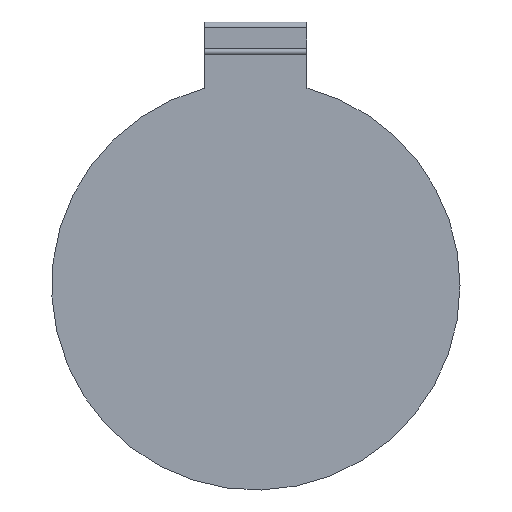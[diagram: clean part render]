
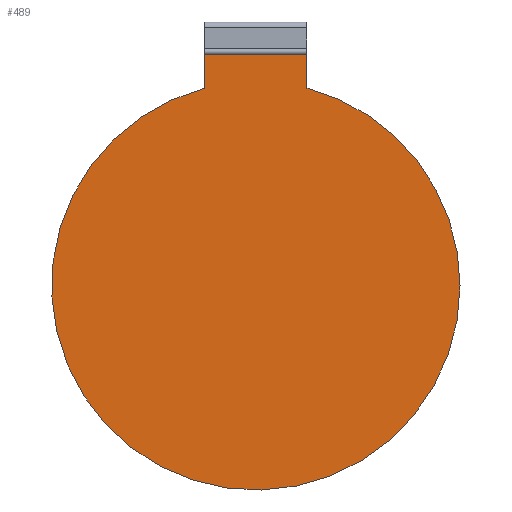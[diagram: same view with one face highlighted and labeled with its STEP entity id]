
A CAD part, left-side view. The second image highlights one B-rep face of the part: STEP entity #489.
In plain terms, the highlighted planar face has unit normal (-1, 0, 0).
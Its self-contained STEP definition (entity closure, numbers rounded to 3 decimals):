
#228=CARTESIAN_POINT('',(-0.8,4.65,17.978));
#229=VERTEX_POINT('',#228);
#236=CARTESIAN_POINT('',(-0.8,4.65,21.));
#237=VERTEX_POINT('',#236);
#238=CARTESIAN_POINT('',(-0.8,4.65,21.));
#239=DIRECTION('',(0.0,0.0,-1.0));
#240=VECTOR('',#239,3.022);
#241=LINE('',#238,#240);
#242=EDGE_CURVE('',#237,#229,#241,.T.);
#431=CARTESIAN_POINT('',(-0.8,-4.65,21.));
#432=VERTEX_POINT('',#431);
#433=CARTESIAN_POINT('',(-0.8,-4.65,21.));
#434=DIRECTION('',(0.0,1.0,0.0));
#435=VECTOR('',#434,9.3);
#436=LINE('',#433,#435);
#437=EDGE_CURVE('',#432,#237,#436,.T.);
#465=CARTESIAN_POINT('',(-0.8,0.,0.));
#466=DIRECTION('',(1.0,0.0,0.0));
#467=DIRECTION('',(0.0,0.0,-1.0));
#468=AXIS2_PLACEMENT_3D('',#465,#466,#467);
#469=PLANE('',#468);
#470=ORIENTED_EDGE('',*,*,#437,.T.);
#471=ORIENTED_EDGE('',*,*,#242,.T.);
#472=CARTESIAN_POINT('',(-0.8,-4.65,17.978));
#473=VERTEX_POINT('',#472);
#474=CARTESIAN_POINT('',(-0.8,0.,0.));
#475=DIRECTION('',(1.0,0.0,0.0));
#476=DIRECTION('',(0.0,0.0,-1.0));
#477=AXIS2_PLACEMENT_3D('',#474,#475,#476);
#478=CIRCLE('',#477,18.57);
#479=EDGE_CURVE('',#473,#229,#478,.T.);
#480=ORIENTED_EDGE('',*,*,#479,.F.);
#481=CARTESIAN_POINT('',(-0.8,-4.65,17.978));
#482=DIRECTION('',(0.0,0.0,1.0));
#483=VECTOR('',#482,3.022);
#484=LINE('',#481,#483);
#485=EDGE_CURVE('',#473,#432,#484,.T.);
#486=ORIENTED_EDGE('',*,*,#485,.T.);
#487=EDGE_LOOP('',(#470,#471,#480,#486));
#488=FACE_OUTER_BOUND('',#487,.T.);
#489=ADVANCED_FACE('',(#488),#469,.F.);
